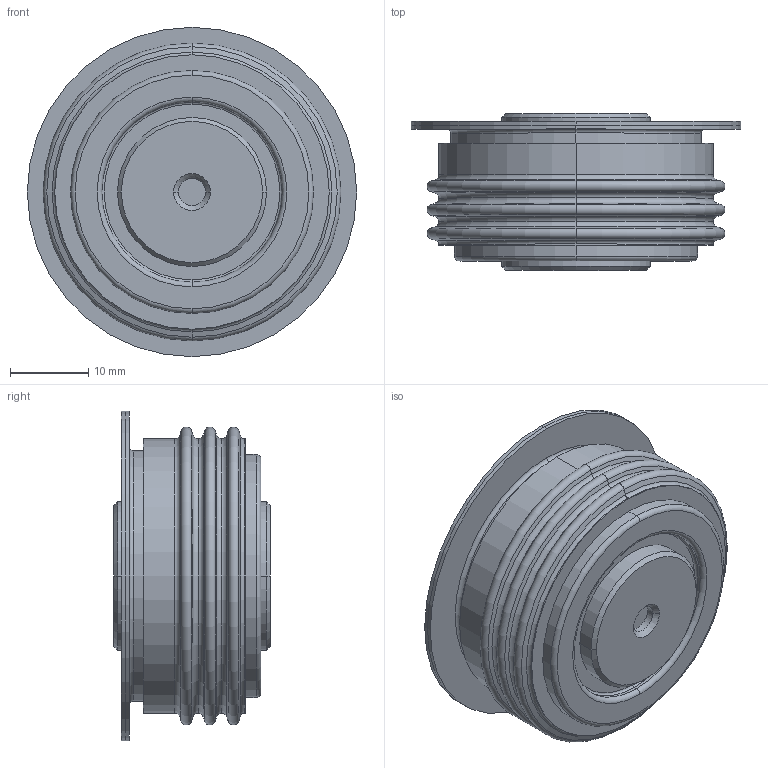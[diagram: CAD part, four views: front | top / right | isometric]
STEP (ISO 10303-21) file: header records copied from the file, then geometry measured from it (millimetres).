
FILE_DESCRIPTION (( 'STEP AP214' ), '1' );
FILE_NAME ('PD22.STEP', '2021-03-01T07:40:18', ( '' ), ( '' ), 'SwSTEP 2.0', 'SolidWorks 2018', '' );
FILE_SCHEMA (( 'AUTOMOTIVE_DESIGN' ));
Length unit declared in the file: millimetre
Products named in the file (1): PD22
Bounding box: 42 x 20 x 42 mm (x, y, z)
Volume: 10841 mm3; surface area: 11360.1 mm2
Topology: 5 solids, 5 shells, 122 faces, 242 edges, 140 vertices
Faces by surface type: torus 42, cylinder 40, plane 20, cone 20
Entity records: 4604 total; most frequent: DIRECTION 670, CARTESIAN_POINT 505, ORIENTED_EDGE 484, AXIS2_PLACEMENT_3D 305, EDGE_CURVE 242, CIRCLE 182, VERTEX_POINT 140, EDGE_LOOP 140
